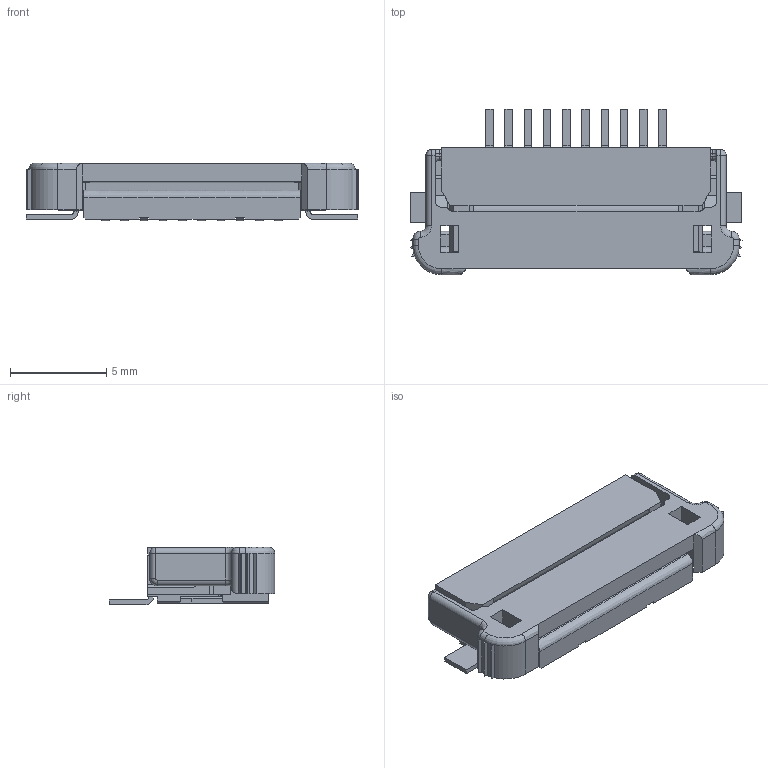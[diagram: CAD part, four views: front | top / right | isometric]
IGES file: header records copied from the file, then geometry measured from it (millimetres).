
Start section: START RECORD GO HERE.
Global section: file name: 00_6200_107_032_800.igs; native system: IBM CATIA IGES - CATIA Version 5 Release 14 ; preprocessor: CATIA Version 5 Release 14 ; author: user; organization: CATIA06; date: 20080220.170430; units: millimetre
Bounding box: 17.26 x 8.6 x 2.98 mm (x, y, z)
Surface area: 638.1 mm2 (no closed solid volume)
Topology: 0 solids, 472 shells, 472 faces, 2938 edges, 2936 vertices
Faces by surface type: plane 366, revolution 106
